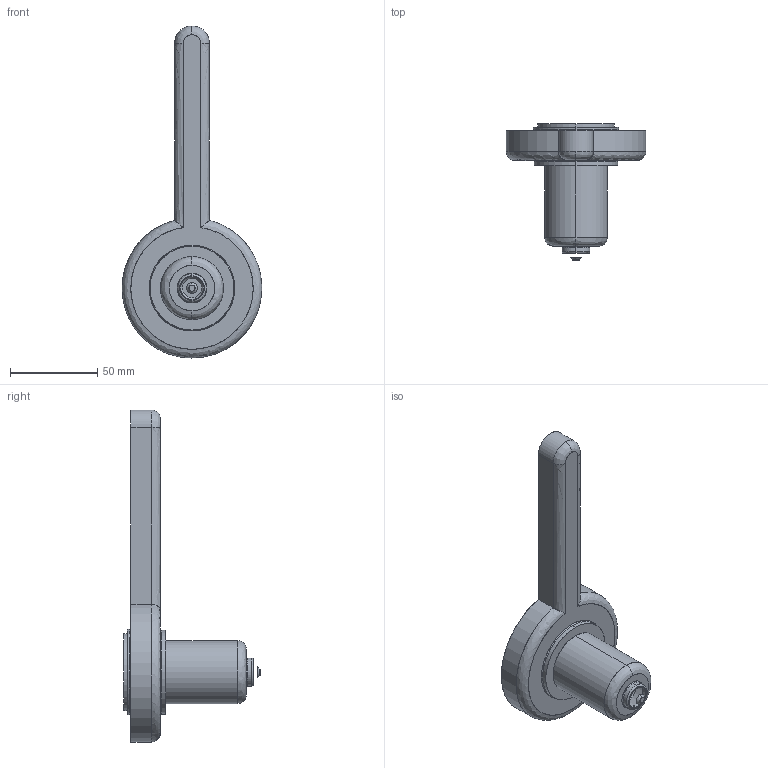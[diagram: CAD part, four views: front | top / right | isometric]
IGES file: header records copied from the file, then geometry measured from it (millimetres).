
Start section: SolidWorks IGES file using analytic representation for surfaces
Global section: file name: C:\Documents and Settings\ws-20\Desktop\TEM\Sede UGEP5001-S-A C-54 L-76 Ød-3.5.IGS; native system: SolidWorks 2012; preprocessor: SolidWorks 2012; author: ws-20; date: 120426.141822; units: millimetre
Bounding box: 79.98 x 78.14 x 190 mm (x, y, z)
Surface area: 27450.5 mm2 (no closed solid volume)
Topology: 0 solids, 0 shells, 44 faces, 952 edges, 952 vertices
Faces by surface type: revolution 27, bspline 17
